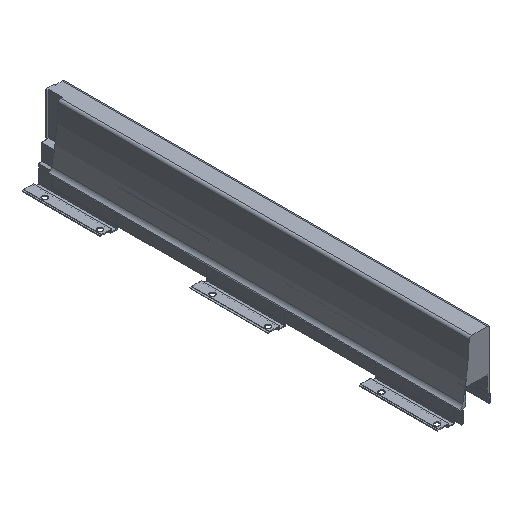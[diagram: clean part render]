
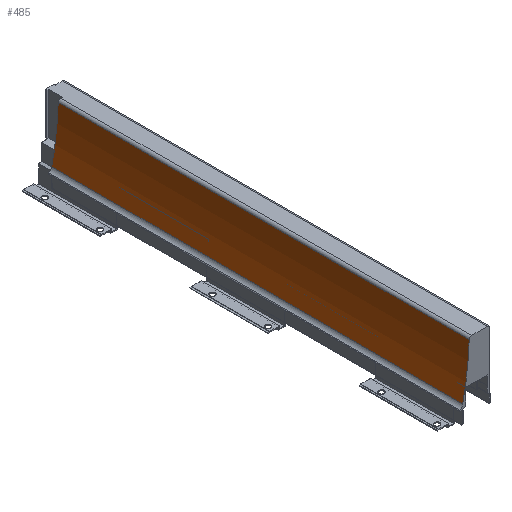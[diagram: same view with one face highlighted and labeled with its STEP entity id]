
A CAD part, isometric view. The second image highlights one B-rep face of the part: STEP entity #485.
In plain terms, the highlighted cylindrical face has radius 350 mm (diameter 700 mm), a partial arc.
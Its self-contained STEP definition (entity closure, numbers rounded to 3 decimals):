
#60 = CARTESIAN_POINT ( 'NONE',  ( -369.661, 473.8, 58.879 ) ) ;
#69 = DIRECTION ( 'NONE',  ( 0., 1., 0. ) ) ;
#70 = DIRECTION ( 'NONE',  ( -1., 0., 0. ) ) ;
#324 = CARTESIAN_POINT ( 'NONE',  ( -19.877, 0., 46.603 ) ) ;
#325 = CARTESIAN_POINT ( 'NONE',  ( -27.28, 0., -13.751 ) ) ;
#358 = CARTESIAN_POINT ( 'NONE',  ( -27.28, 473.8, -13.751 ) ) ;
#362 = CARTESIAN_POINT ( 'NONE',  ( -19.877, 473.8, 46.603 ) ) ;
#485 = ADVANCED_FACE ( 'NONE', ( #1955 ), #1957, .F. ) ;
#739 = CARTESIAN_POINT ( 'NONE',  ( -369.661, 0., 58.879 ) ) ;
#749 = DIRECTION ( 'NONE',  ( 0., 1., 0. ) ) ;
#750 = DIRECTION ( 'NONE',  ( -1., 0., 0. ) ) ;
#759 = CARTESIAN_POINT ( 'NONE',  ( -19.877, 490., 46.603 ) ) ;
#760 = DIRECTION ( 'NONE',  ( 0., -1., 0. ) ) ;
#811 = AXIS2_PLACEMENT_3D ( 'NONE', #60, #69, #70 ) ;
#838 = EDGE_CURVE ( 'NONE', #3269, #2928, #2029, .T. ) ;
#878 = AXIS2_PLACEMENT_3D ( 'NONE', #2968, #2969, #2970 ) ;
#999 = AXIS2_PLACEMENT_3D ( 'NONE', #739, #749, #750 ) ;
#1272 = EDGE_CURVE ( 'NONE', #2927, #2928, #3510, .T. ) ;
#1277 = EDGE_CURVE ( 'NONE', #3264, #2927, #3515, .T. ) ;
#1356 = EDGE_CURVE ( 'NONE', #3264, #3269, #3612, .T. ) ;
#1955 = FACE_OUTER_BOUND ( 'NONE', #3275, .T. ) ;
#1957 = CYLINDRICAL_SURFACE ( 'NONE', #878, 350. ) ;
#2029 = LINE ( 'NONE', #3145, #2186 ) ;
#2186 = VECTOR ( 'NONE', #3148, 1000. ) ;
#2927 = VERTEX_POINT ( 'NONE', #324 ) ;
#2928 = VERTEX_POINT ( 'NONE', #325 ) ;
#2968 = CARTESIAN_POINT ( 'NONE',  ( -369.661, 490., 58.879 ) ) ;
#2969 = DIRECTION ( 'NONE',  ( 0., -1., 0. ) ) ;
#2970 = DIRECTION ( 'NONE',  ( 1., 0., 0. ) ) ;
#3145 = CARTESIAN_POINT ( 'NONE',  ( -27.28, 490., -13.751 ) ) ;
#3148 = DIRECTION ( 'NONE',  ( 0., -1., 0. ) ) ;
#3264 = VERTEX_POINT ( 'NONE', #362 ) ;
#3269 = VERTEX_POINT ( 'NONE', #358 ) ;
#3275 = EDGE_LOOP ( 'NONE', ( #3386, #3388, #3394, #3393 ) ) ;
#3386 = ORIENTED_EDGE ( 'NONE', *, *, #1277, .F. ) ;
#3388 = ORIENTED_EDGE ( 'NONE', *, *, #1356, .T. ) ;
#3393 = ORIENTED_EDGE ( 'NONE', *, *, #1272, .F. ) ;
#3394 = ORIENTED_EDGE ( 'NONE', *, *, #838, .T. ) ;
#3510 = CIRCLE ( 'NONE', #999, 350. ) ;
#3515 = LINE ( 'NONE', #759, #3516 ) ;
#3516 = VECTOR ( 'NONE', #760, 1000. ) ;
#3612 = CIRCLE ( 'NONE', #811, 350. ) ;
